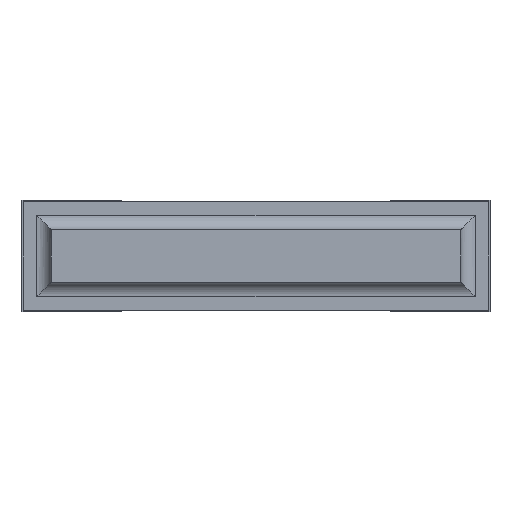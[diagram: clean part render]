
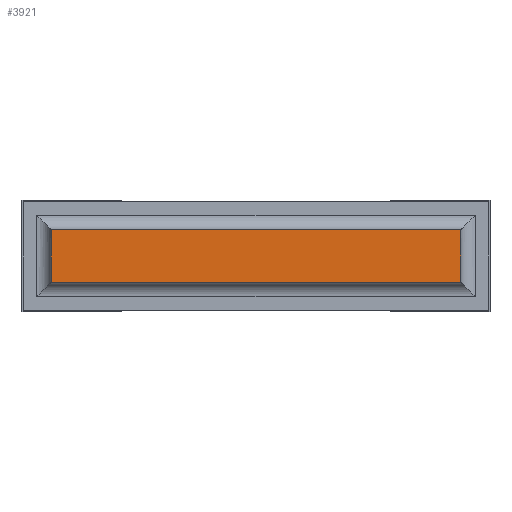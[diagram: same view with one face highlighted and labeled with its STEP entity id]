
A CAD part, front view. The second image highlights one B-rep face of the part: STEP entity #3921.
In plain terms, the highlighted planar face has unit normal (0, -1, 0).
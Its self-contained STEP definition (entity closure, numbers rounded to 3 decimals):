
#307=FACE_OUTER_BOUND('',#552,.T.);
#552=EDGE_LOOP('',(#3227,#3228,#3229,#3230));
#937=LINE('',#6094,#1429);
#940=LINE('',#6104,#1432);
#952=LINE('',#6131,#1444);
#954=LINE('',#6135,#1446);
#1429=VECTOR('',#5005,10.);
#1432=VECTOR('',#5016,10.);
#1444=VECTOR('',#5040,10.);
#1446=VECTOR('',#5046,10.);
#1833=VERTEX_POINT('',#6091);
#1834=VERTEX_POINT('',#6093);
#1837=VERTEX_POINT('',#6103);
#1846=VERTEX_POINT('',#6130);
#2305=EDGE_CURVE('',#1834,#1833,#937,.T.);
#2310=EDGE_CURVE('',#1837,#1833,#940,.T.);
#2324=EDGE_CURVE('',#1834,#1846,#952,.T.);
#2326=EDGE_CURVE('',#1846,#1837,#954,.T.);
#3227=ORIENTED_EDGE('',*,*,#2326,.F.);
#3228=ORIENTED_EDGE('',*,*,#2324,.F.);
#3229=ORIENTED_EDGE('',*,*,#2305,.T.);
#3230=ORIENTED_EDGE('',*,*,#2310,.F.);
#3691=PLANE('',#4231);
#3921=ADVANCED_FACE('',(#307),#3691,.T.);
#4231=AXIS2_PLACEMENT_3D('',#6136,#5047,#5048);
#5005=DIRECTION('',(0.,0.,-1.));
#5016=DIRECTION('',(-1.,0.,0.));
#5040=DIRECTION('',(1.,0.,0.));
#5046=DIRECTION('',(0.,0.,-1.));
#5047=DIRECTION('center_axis',(0.,-1.,0.));
#5048=DIRECTION('ref_axis',(0.,0.,-1.));
#6091=CARTESIAN_POINT('',(0.1,0.,0.1));
#6093=CARTESIAN_POINT('',(0.1,0.,0.28));
#6094=CARTESIAN_POINT('',(0.1,0.,0.28));
#6103=CARTESIAN_POINT('',(1.5,0.,0.1));
#6104=CARTESIAN_POINT('',(1.5,0.,0.1));
#6130=CARTESIAN_POINT('',(1.5,0.,0.28));
#6131=CARTESIAN_POINT('',(0.1,0.,0.28));
#6135=CARTESIAN_POINT('',(1.5,0.,0.28));
#6136=CARTESIAN_POINT('Origin',(1.5,0.,0.19));
